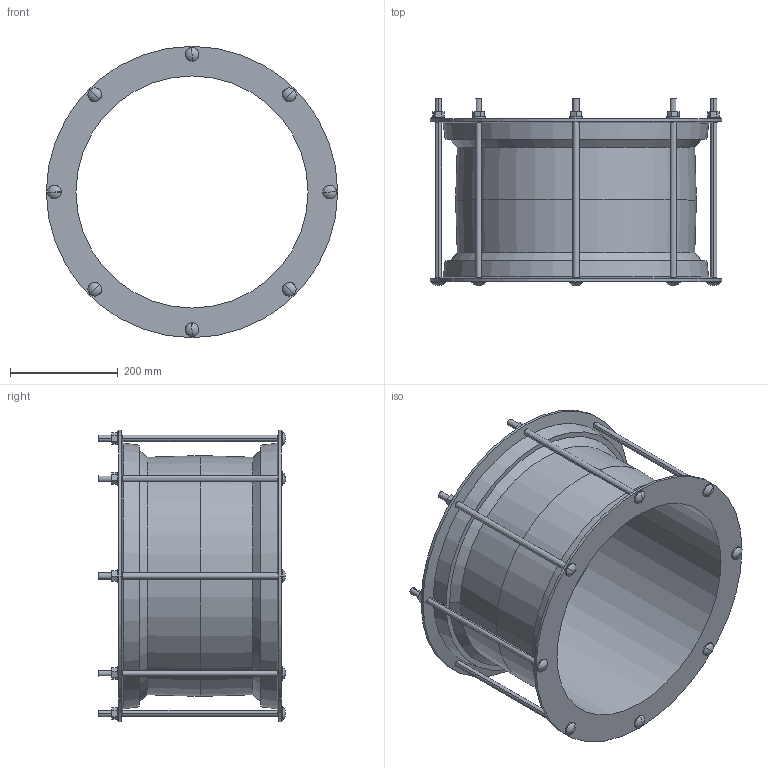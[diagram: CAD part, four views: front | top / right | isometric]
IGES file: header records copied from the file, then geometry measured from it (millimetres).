
Start section:  PTC IGES file: 412_429.igs
Global section: file name: 412_429.igs; native system: Creo Parametric by PTC Inc.; preprocessor: 2016130; author: mfairey; organization: Unknown; date: 20181218.112740; units: millimetre
Bounding box: 541 x 348 x 541 mm (x, y, z)
Surface area: 1225421.8 mm2 (no closed solid volume)
Topology: 0 solids, 0 shells, 178 faces, 848 edges, 832 vertices
Faces by surface type: revolution 102, bspline 76
